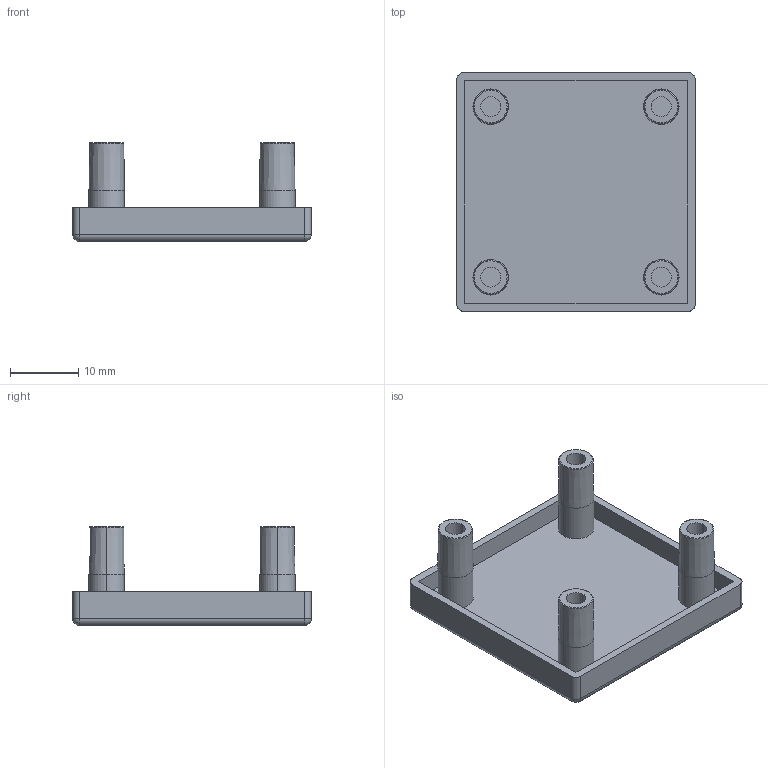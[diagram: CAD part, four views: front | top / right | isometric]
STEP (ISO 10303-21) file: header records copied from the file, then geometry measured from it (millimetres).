
FILE_DESCRIPTION (( 'STEP AP203' ), '1' );
FILE_NAME ('DEC3535.STEP', '2022-06-24T02:24:44', ( '' ), ( '' ), 'SwSTEP 2.0', 'SolidWorks 2017', '' );
FILE_SCHEMA (( 'CONFIG_CONTROL_DESIGN' ));
Length unit declared in the file: millimetre
Products named in the file (1): DEC3535
Bounding box: 35 x 35 x 14.5 mm (x, y, z)
Volume: 3611.9 mm3; surface area: 4725.7 mm2
Topology: 1 solids, 1 shells, 63 faces, 132 edges, 76 vertices
Faces by surface type: cylinder 24, plane 19, torus 8, cone 8, sphere 4
Entity records: 1727 total; most frequent: DIRECTION 328, CARTESIAN_POINT 268, ORIENTED_EDGE 256, AXIS2_PLACEMENT_3D 136, EDGE_CURVE 128, VERTEX_POINT 76, CIRCLE 72, EDGE_LOOP 72
